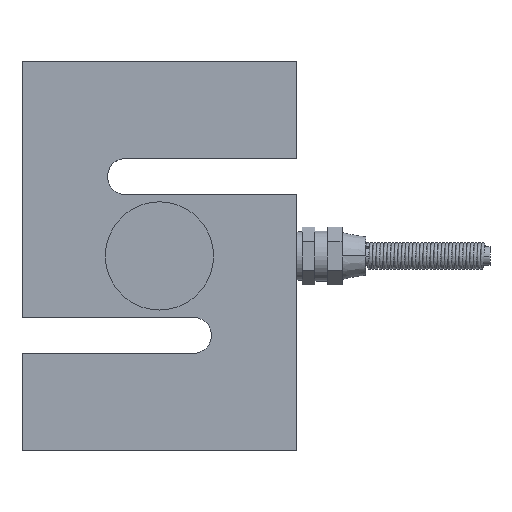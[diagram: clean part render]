
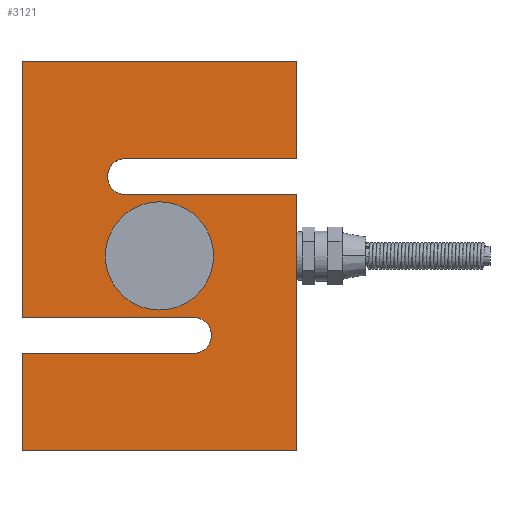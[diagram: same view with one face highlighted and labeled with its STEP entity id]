
A CAD part, top view. The second image highlights one B-rep face of the part: STEP entity #3121.
In plain terms, the highlighted planar face has unit normal (0, 0, 1).
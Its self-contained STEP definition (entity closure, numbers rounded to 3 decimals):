
#439 = DIRECTION ( 'NONE',  ( 1., 0., 0. ) ) ;
#514 = DIRECTION ( 'NONE',  ( 0., 0., 1. ) ) ;
#526 = CARTESIAN_POINT ( 'NONE',  ( -47.5, -32., 25.5 ) ) ;
#562 = CARTESIAN_POINT ( 'NONE',  ( 0., -108., 25.5 ) ) ;
#568 = CARTESIAN_POINT ( 'NONE',  ( -52.5, -32., 25.5 ) ) ;
#570 = CARTESIAN_POINT ( 'NONE',  ( -28.7, -81., 25.5 ) ) ;
#571 = CARTESIAN_POINT ( 'NONE',  ( -53.1, -54., 25.5 ) ) ;
#579 = CARTESIAN_POINT ( 'NONE',  ( -47.5, -37., 25.5 ) ) ;
#635 = CARTESIAN_POINT ( 'NONE',  ( -76.2, -71., 25.5 ) ) ;
#658 = PLANE ( 'NONE',  #1155 ) ;
#667 = CARTESIAN_POINT ( 'NONE',  ( -47.5, -32., 25.5 ) ) ;
#681 = CARTESIAN_POINT ( 'NONE',  ( -76.2, -81., 25.5 ) ) ;
#733 = DIRECTION ( 'NONE',  ( 1., 0., 0. ) ) ;
#777 = DIRECTION ( 'NONE',  ( 0., 0., -1. ) ) ;
#786 = CARTESIAN_POINT ( 'NONE',  ( 0., -27., 25.5 ) ) ;
#796 = CARTESIAN_POINT ( 'NONE',  ( 0., 0., 25.5 ) ) ;
#804 = CARTESIAN_POINT ( 'NONE',  ( -28.7, -71., 25.5 ) ) ;
#807 = CARTESIAN_POINT ( 'NONE',  ( -76.2, -108., 25.5 ) ) ;
#840 = CARTESIAN_POINT ( 'NONE',  ( 0., -37., 25.5 ) ) ;
#841 = CARTESIAN_POINT ( 'NONE',  ( -76.2, 0., 25.5 ) ) ;
#909 = VERTEX_POINT ( 'NONE', #3883 ) ;
#937 = VERTEX_POINT ( 'NONE', #571 ) ;
#943 = VERTEX_POINT ( 'NONE', #807 ) ;
#947 = VERTEX_POINT ( 'NONE', #579 ) ;
#954 = VERTEX_POINT ( 'NONE', #804 ) ;
#958 = VERTEX_POINT ( 'NONE', #681 ) ;
#959 = VERTEX_POINT ( 'NONE', #570 ) ;
#961 = VERTEX_POINT ( 'NONE', #635 ) ;
#962 = VERTEX_POINT ( 'NONE', #796 ) ;
#971 = VERTEX_POINT ( 'NONE', #786 ) ;
#983 = VERTEX_POINT ( 'NONE', #841 ) ;
#987 = VERTEX_POINT ( 'NONE', #840 ) ;
#988 = VERTEX_POINT ( 'NONE', #568 ) ;
#991 = VERTEX_POINT ( 'NONE', #562 ) ;
#1031 = AXIS2_PLACEMENT_3D ( 'NONE', #4325, #4326, #4327 ) ;
#1059 = AXIS2_PLACEMENT_3D ( 'NONE', #4471, #4472, #4473 ) ;
#1094 = AXIS2_PLACEMENT_3D ( 'NONE', #5033, #5034, #5035 ) ;
#1098 = AXIS2_PLACEMENT_3D ( 'NONE', #5014, #5015, #5016 ) ;
#1155 = AXIS2_PLACEMENT_3D ( 'NONE', #526, #514, #439 ) ;
#1170 = AXIS2_PLACEMENT_3D ( 'NONE', #667, #777, #733 ) ;
#1210 = EDGE_CURVE ( 'NONE', #988, #3242, #3528, .T. ) ;
#1321 = LINE ( 'NONE', #4405, #1324 ) ;
#1324 = VECTOR ( 'NONE', #4406, 1000. ) ;
#1328 = LINE ( 'NONE', #4409, #1335 ) ;
#1335 = VECTOR ( 'NONE', #4418, 1000. ) ;
#1338 = LINE ( 'NONE', #4425, #1346 ) ;
#1346 = VECTOR ( 'NONE', #4432, 1000. ) ;
#1367 = LINE ( 'NONE', #4456, #1373 ) ;
#1370 = CIRCLE ( 'NONE', #1059, 5. ) ;
#1373 = VECTOR ( 'NONE', #4461, 1000. ) ;
#1410 = LINE ( 'NONE', #4516, #1418 ) ;
#1416 = LINE ( 'NONE', #4515, #1428 ) ;
#1418 = VECTOR ( 'NONE', #4511, 1000. ) ;
#1428 = VECTOR ( 'NONE', #4529, 1000. ) ;
#3121 = ADVANCED_FACE ( 'NONE', ( #3546, #3553 ), #658, .T. ) ;
#3180 = EDGE_CURVE ( 'NONE', #943, #991, #3646, .T. ) ;
#3185 = EDGE_CURVE ( 'NONE', #987, #947, #3653, .T. ) ;
#3186 = EDGE_CURVE ( 'NONE', #947, #988, #3660, .T. ) ;
#3192 = EDGE_CURVE ( 'NONE', #3242, #971, #3668, .T. ) ;
#3193 = EDGE_CURVE ( 'NONE', #909, #937, #3670, .T. ) ;
#3230 = EDGE_CURVE ( 'NONE', #937, #909, #3727, .T. ) ;
#3242 = VERTEX_POINT ( 'NONE', #4332 ) ;
#3269 = ORIENTED_EDGE ( 'NONE', *, *, #8467, .T. ) ;
#3271 = ORIENTED_EDGE ( 'NONE', *, *, #3186, .T. ) ;
#3275 = ORIENTED_EDGE ( 'NONE', *, *, #3230, .F. ) ;
#3291 = ORIENTED_EDGE ( 'NONE', *, *, #3185, .T. ) ;
#3321 = ORIENTED_EDGE ( 'NONE', *, *, #3192, .T. ) ;
#3323 = ORIENTED_EDGE ( 'NONE', *, *, #3180, .T. ) ;
#3325 = ORIENTED_EDGE ( 'NONE', *, *, #8421, .T. ) ;
#3326 = ORIENTED_EDGE ( 'NONE', *, *, #8404, .T. ) ;
#3333 = ORIENTED_EDGE ( 'NONE', *, *, #1210, .T. ) ;
#3341 = ORIENTED_EDGE ( 'NONE', *, *, #8472, .T. ) ;
#3366 = ORIENTED_EDGE ( 'NONE', *, *, #8441, .T. ) ;
#3369 = ORIENTED_EDGE ( 'NONE', *, *, #8415, .T. ) ;
#3385 = ORIENTED_EDGE ( 'NONE', *, *, #8427, .T. ) ;
#3392 = ORIENTED_EDGE ( 'NONE', *, *, #8446, .T. ) ;
#3417 = ORIENTED_EDGE ( 'NONE', *, *, #3193, .F. ) ;
#3446 = EDGE_LOOP ( 'NONE', ( #3417, #3275 ) ) ;
#3462 = EDGE_LOOP ( 'NONE', ( #3369, #3325, #3385, #3366, #3392, #3269, #3341, #3323, #3326, #3291, #3271, #3333, #3321 ) ) ;
#3528 = CIRCLE ( 'NONE', #1170, 5. ) ;
#3546 = FACE_BOUND ( 'NONE', #3446, .T. ) ;
#3553 = FACE_OUTER_BOUND ( 'NONE', #3462, .T. ) ;
#3646 = LINE ( 'NONE', #5000, #3652 ) ;
#3652 = VECTOR ( 'NONE', #4992, 1000. ) ;
#3653 = LINE ( 'NONE', #5007, #3661 ) ;
#3660 = CIRCLE ( 'NONE', #1098, 5. ) ;
#3661 = VECTOR ( 'NONE', #5013, 1000. ) ;
#3668 = LINE ( 'NONE', #5030, #3671 ) ;
#3670 = CIRCLE ( 'NONE', #1094, 15. ) ;
#3671 = VECTOR ( 'NONE', #5031, 1000. ) ;
#3727 = CIRCLE ( 'NONE', #1031, 15. ) ;
#3767 = LINE ( 'NONE', #4379, #3770 ) ;
#3770 = VECTOR ( 'NONE', #4380, 1000. ) ;
#3883 = CARTESIAN_POINT ( 'NONE',  ( -23.1, -54., 25.5 ) ) ;
#4325 = CARTESIAN_POINT ( 'NONE',  ( -38.1, -54., 25.5 ) ) ;
#4326 = DIRECTION ( 'NONE',  ( 0., 0., 1. ) ) ;
#4327 = DIRECTION ( 'NONE',  ( 1., 0., 0. ) ) ;
#4332 = CARTESIAN_POINT ( 'NONE',  ( -47.5, -27., 25.5 ) ) ;
#4379 = CARTESIAN_POINT ( 'NONE',  ( 0., -37., 25.5 ) ) ;
#4380 = DIRECTION ( 'NONE',  ( 0., 1., 0. ) ) ;
#4405 = CARTESIAN_POINT ( 'NONE',  ( 0., 0., 25.5 ) ) ;
#4406 = DIRECTION ( 'NONE',  ( 0., 1., 0. ) ) ;
#4409 = CARTESIAN_POINT ( 'NONE',  ( 0., 0., 25.5 ) ) ;
#4418 = DIRECTION ( 'NONE',  ( -1., 0., 0. ) ) ;
#4425 = CARTESIAN_POINT ( 'NONE',  ( -76.2, 0., 25.5 ) ) ;
#4432 = DIRECTION ( 'NONE',  ( 0., -1., 0. ) ) ;
#4456 = CARTESIAN_POINT ( 'NONE',  ( -76.2, -71., 25.5 ) ) ;
#4461 = DIRECTION ( 'NONE',  ( 1., 0., 0. ) ) ;
#4471 = CARTESIAN_POINT ( 'NONE',  ( -28.7, -76., 25.5 ) ) ;
#4472 = DIRECTION ( 'NONE',  ( 0., 0., -1. ) ) ;
#4473 = DIRECTION ( 'NONE',  ( -1., 0., 0. ) ) ;
#4511 = DIRECTION ( 'NONE',  ( -1., 0., 0. ) ) ;
#4515 = CARTESIAN_POINT ( 'NONE',  ( -76.2, -81., 25.5 ) ) ;
#4516 = CARTESIAN_POINT ( 'NONE',  ( -28.7, -81., 25.5 ) ) ;
#4529 = DIRECTION ( 'NONE',  ( 0., -1., 0. ) ) ;
#4992 = DIRECTION ( 'NONE',  ( 1., 0., 0. ) ) ;
#5000 = CARTESIAN_POINT ( 'NONE',  ( -76.2, -108., 25.5 ) ) ;
#5007 = CARTESIAN_POINT ( 'NONE',  ( -47.5, -37., 25.5 ) ) ;
#5013 = DIRECTION ( 'NONE',  ( -1., 0., 0. ) ) ;
#5014 = CARTESIAN_POINT ( 'NONE',  ( -47.5, -32., 25.5 ) ) ;
#5015 = DIRECTION ( 'NONE',  ( 0., 0., -1. ) ) ;
#5016 = DIRECTION ( 'NONE',  ( 1., 0., 0. ) ) ;
#5030 = CARTESIAN_POINT ( 'NONE',  ( 0., -27., 25.5 ) ) ;
#5031 = DIRECTION ( 'NONE',  ( 1., 0., 0. ) ) ;
#5033 = CARTESIAN_POINT ( 'NONE',  ( -38.1, -54., 25.5 ) ) ;
#5034 = DIRECTION ( 'NONE',  ( 0., 0., 1. ) ) ;
#5035 = DIRECTION ( 'NONE',  ( 1., 0., 0. ) ) ;
#8404 = EDGE_CURVE ( 'NONE', #991, #987, #3767, .T. ) ;
#8415 = EDGE_CURVE ( 'NONE', #971, #962, #1321, .T. ) ;
#8421 = EDGE_CURVE ( 'NONE', #962, #983, #1328, .T. ) ;
#8427 = EDGE_CURVE ( 'NONE', #983, #961, #1338, .T. ) ;
#8441 = EDGE_CURVE ( 'NONE', #961, #954, #1367, .T. ) ;
#8446 = EDGE_CURVE ( 'NONE', #954, #959, #1370, .T. ) ;
#8467 = EDGE_CURVE ( 'NONE', #959, #958, #1410, .T. ) ;
#8472 = EDGE_CURVE ( 'NONE', #958, #943, #1416, .T. ) ;
